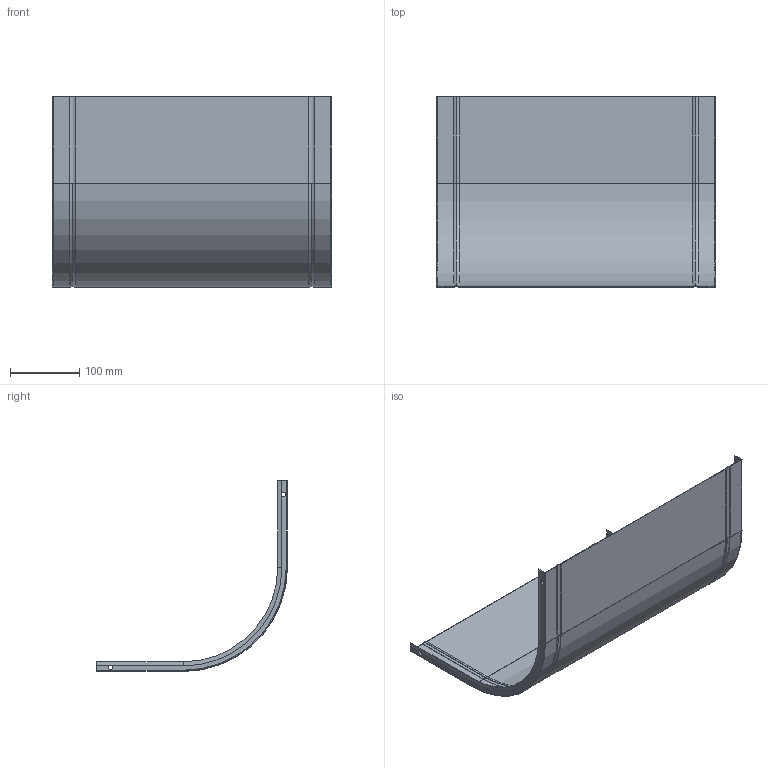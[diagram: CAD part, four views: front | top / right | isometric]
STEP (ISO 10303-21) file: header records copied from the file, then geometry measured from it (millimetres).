
FILE_DESCRIPTION (( 'STEP AP203' ), '1' );
FILE_NAME ('ERE_TAPA CXERC 400x100.step', '2023-07-28T14:53:06', ( '' ), ( '' ), 'SwSTEP 2.0', 'SolidWorks 2022', '' );
FILE_SCHEMA (( 'CONFIG_CONTROL_DESIGN' ));
Length unit declared in the file: millimetre
Products named in the file (1): ERE_TAPA CXERC 400x100
Bounding box: 402 x 275 x 275 mm (x, y, z)
Volume: 166215.8 mm3; surface area: 416358.1 mm2
Topology: 1 solids, 1 shells, 82 faces, 228 edges, 140 vertices
Faces by surface type: cylinder 36, plane 30, torus 12, cone 4
Entity records: 2709 total; most frequent: CARTESIAN_POINT 487, DIRECTION 474, ORIENTED_EDGE 456, EDGE_CURVE 228, AXIS2_PLACEMENT_3D 175, VERTEX_POINT 140, VECTOR 124, LINE 124
